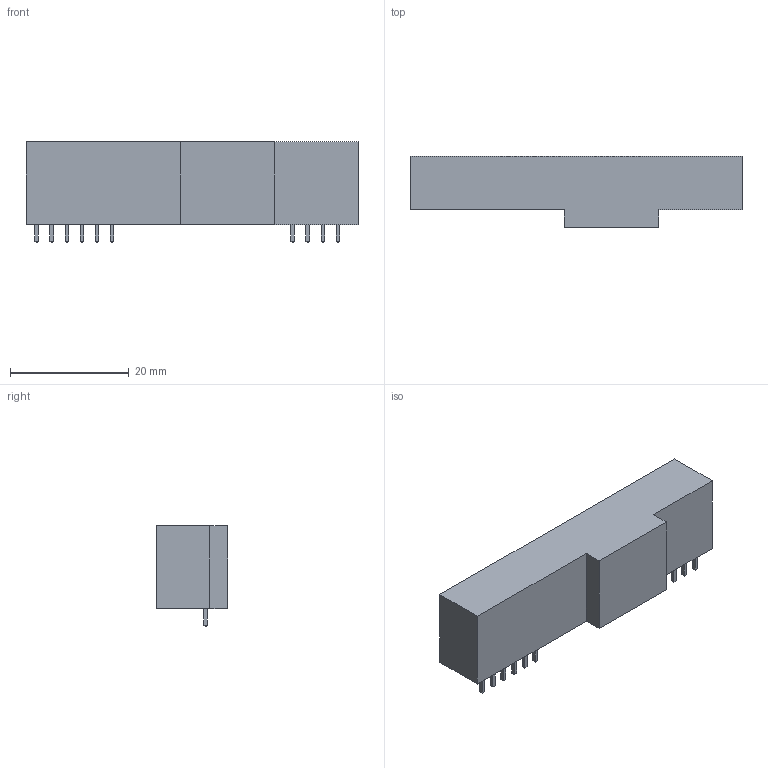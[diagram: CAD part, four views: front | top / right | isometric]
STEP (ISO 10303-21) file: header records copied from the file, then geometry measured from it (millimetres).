
FILE_DESCRIPTION(('FreeCAD Model'),'2;1');
FILE_NAME('C:/Users/PeterH/Desktop/Ag102.step','2017-03-27T11:16:46',( 'Author'),(''),'Open CASCADE STEP processor 6.8','FreeCAD','Unknown' );
FILE_SCHEMA(('AUTOMOTIVE_DESIGN_CC2 { 1 2 10303 214 -1 1 5 4 }'));
Length unit declared in the file: millimetre
Products named in the file (2): ASSEMBLY; Chamfer
Assembly tree (1 placements, depth 2):
  ASSEMBLY
    Chamfer
Bounding box: 56 x 12 x 17 mm (x, y, z)
Volume: 7738.5 mm3; surface area: 3076.6 mm2
Topology: 1 solids, 1 shells, 100 faces, 224 edges, 136 vertices
Faces by surface type: plane 100
Entity records: 5619 total; most frequent: CARTESIAN_POINT 910, DIRECTION 876, LINE 672, VECTOR 672, ORIENTED_EDGE 448, PCURVE 448, DEFINITIONAL_REPRESENTATION 448, EDGE_CURVE 224
